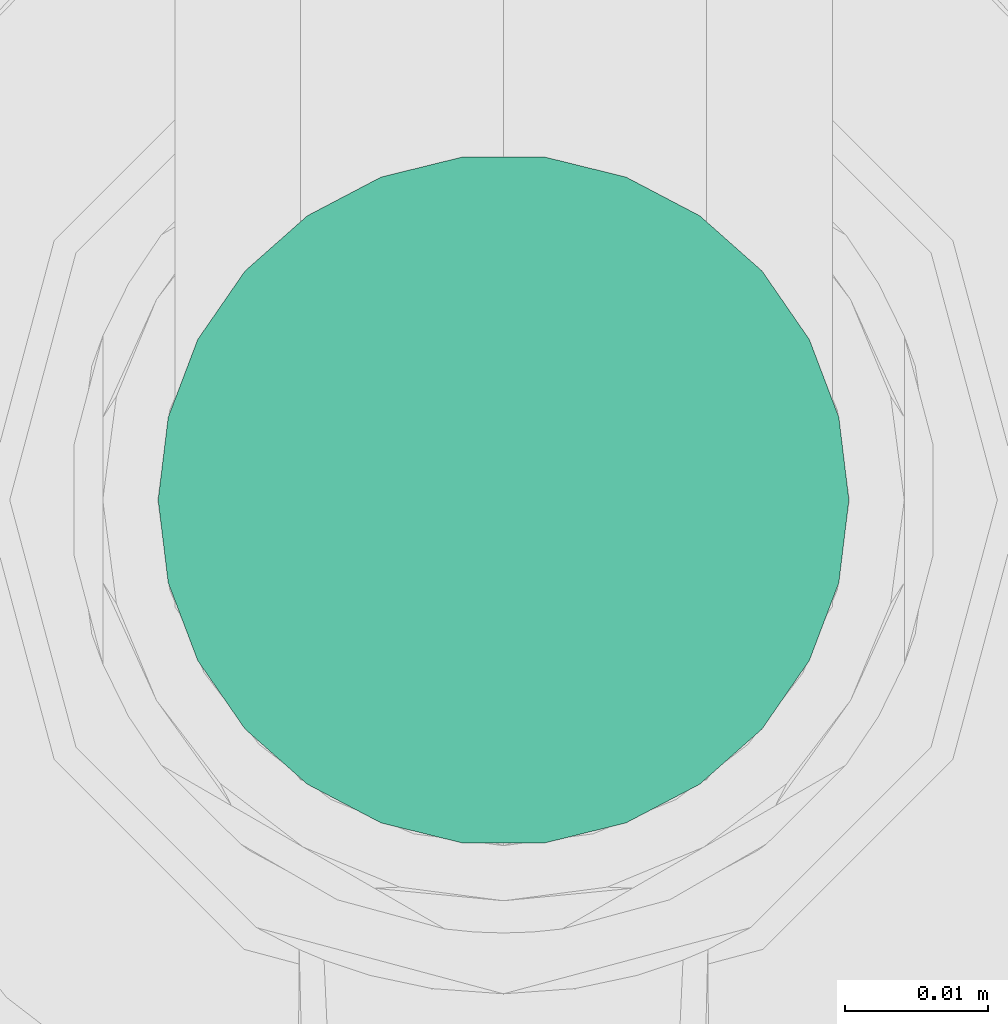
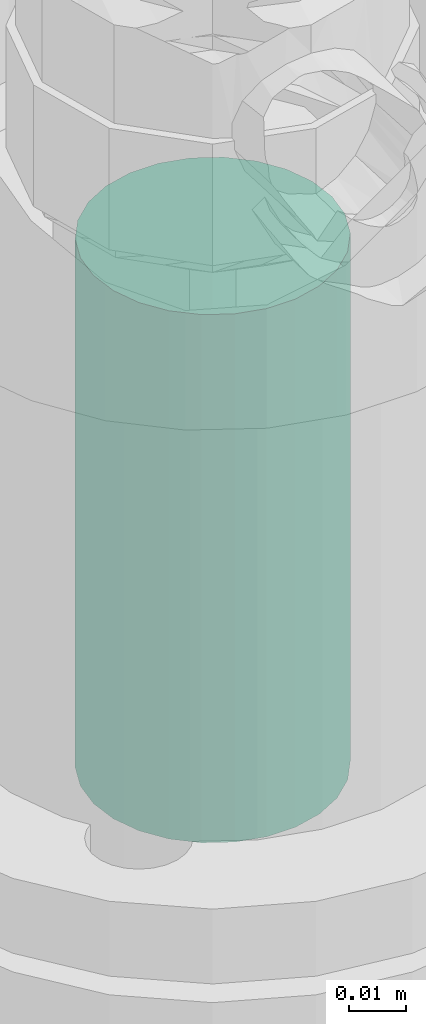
# One storey, part 73 of 94: 1 flow segment.
"""IFC2X3 building model written with IfcOpenShell, lengths in millimetres."""

from ifc_helpers import new_model, entity, si_unit, converted_unit, derived_unit, direction, frame, origin, origin_2d_with_axis, place, context, subcontext, project, spatial, circle, extrude, type_object, element, save


model = new_model("IFC2X3")

# Units and contexts
model_context = context("Model", 3, precision=0.01, world=origin(), true_north=direction((6.123031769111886e-17, 1.0)))
body_context = subcontext(model_context, "Body", "Model", "MODEL_VIEW")
ifc_project = project(units=[si_unit("LENGTHUNIT", "METRE", prefix="MILLI"), si_unit("AREAUNIT", "SQUARE_METRE"), si_unit("VOLUMEUNIT", "CUBIC_METRE"), converted_unit("PLANEANGLEUNIT", "DEGREE", entity("IfcRatioMeasure", 0.017453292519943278), si_unit("PLANEANGLEUNIT", "RADIAN"), dimensions=[0, 0, 0, 0, 0, 0, 0]), si_unit("MASSUNIT", "GRAM", prefix="KILO"), derived_unit("MASSDENSITYUNIT", [(si_unit("MASSUNIT", "GRAM", prefix="KILO"), 1), (si_unit("LENGTHUNIT", "METRE"), -3)]), derived_unit("IONCONCENTRATIONUNIT", [(si_unit("MASSUNIT", "GRAM", prefix="KILO"), 1), (si_unit("LENGTHUNIT", "METRE"), -3)]), derived_unit("MOMENTOFINERTIAUNIT", [(si_unit("LENGTHUNIT", "METRE"), 4)]), si_unit("TIMEUNIT", "SECOND"), si_unit("FREQUENCYUNIT", "HERTZ"), si_unit("THERMODYNAMICTEMPERATUREUNIT", "DEGREE_CELSIUS"), derived_unit("THERMALTRANSMITTANCEUNIT", [(si_unit("MASSUNIT", "GRAM", prefix="KILO"), 1), (si_unit("THERMODYNAMICTEMPERATUREUNIT", "KELVIN"), -1), (si_unit("TIMEUNIT", "SECOND"), -3)]), derived_unit("THERMALCONDUCTANCEUNIT", [(si_unit("MASSUNIT", "GRAM", prefix="KILO"), 1), (si_unit("THERMODYNAMICTEMPERATUREUNIT", "KELVIN"), -1), (si_unit("TIMEUNIT", "SECOND"), -3), (si_unit("LENGTHUNIT", "METRE"), 1)]), derived_unit("VOLUMETRICFLOWRATEUNIT", [(si_unit("LENGTHUNIT", "METRE"), 3), (si_unit("TIMEUNIT", "SECOND"), -1)]), derived_unit("MASSFLOWRATEUNIT", [(si_unit("MASSUNIT", "GRAM", prefix="KILO"), 1), (si_unit("TIMEUNIT", "SECOND"), -1)]), derived_unit("ROTATIONALFREQUENCYUNIT", [(si_unit("TIMEUNIT", "SECOND"), -1)]), si_unit("ELECTRICCURRENTUNIT", "AMPERE"), si_unit("ELECTRICVOLTAGEUNIT", "VOLT"), si_unit("POWERUNIT", "WATT"), si_unit("FORCEUNIT", "NEWTON", prefix="KILO"), si_unit("ILLUMINANCEUNIT", "LUX"), si_unit("LUMINOUSFLUXUNIT", "LUMEN"), si_unit("LUMINOUSINTENSITYUNIT", "CANDELA"), derived_unit("USERDEFINED", [(si_unit("MASSUNIT", "GRAM", prefix="KILO"), -1), (si_unit("LENGTHUNIT", "METRE"), -2), (si_unit("TIMEUNIT", "SECOND"), 3), (si_unit("LUMINOUSFLUXUNIT", "LUMEN"), 1)]), derived_unit("USERDEFINED", [(si_unit("MASSUNIT", "GRAM", prefix="KILO"), 1), (si_unit("TIMEUNIT", "SECOND"), -3), (si_unit("LENGTHUNIT", "METRE"), 3), (si_unit("ELECTRICCURRENTUNIT", "AMPERE"), -2)]), derived_unit("SOUNDPOWERUNIT", [(si_unit("MASSUNIT", "GRAM", prefix="KILO"), 1), (si_unit("TIMEUNIT", "SECOND"), -3), (si_unit("LENGTHUNIT", "METRE"), 2)]), derived_unit("SOUNDPRESSUREUNIT", [(si_unit("MASSUNIT", "GRAM", prefix="KILO"), 1), (si_unit("LENGTHUNIT", "METRE"), -1), (si_unit("TIMEUNIT", "SECOND"), -2)]), derived_unit("LINEARVELOCITYUNIT", [(si_unit("LENGTHUNIT", "METRE"), 1), (si_unit("TIMEUNIT", "SECOND"), -1)]), si_unit("PRESSUREUNIT", "PASCAL"), derived_unit("USERDEFINED", [(si_unit("MASSUNIT", "GRAM", prefix="KILO"), 1), (si_unit("LENGTHUNIT", "METRE"), -2), (si_unit("TIMEUNIT", "SECOND"), -2)]), derived_unit("LINEARFORCEUNIT", [(si_unit("MASSUNIT", "GRAM", prefix="KILO"), 1), (si_unit("TIMEUNIT", "SECOND"), -2)]), derived_unit("PLANARFORCEUNIT", [(si_unit("MASSUNIT", "GRAM", prefix="KILO"), 1), (si_unit("LENGTHUNIT", "METRE"), -1), (si_unit("TIMEUNIT", "SECOND"), -2)]), derived_unit("SPECIFICHEATCAPACITYUNIT", [(si_unit("THERMODYNAMICTEMPERATUREUNIT", "KELVIN"), -1), (si_unit("LENGTHUNIT", "METRE"), 2), (si_unit("TIMEUNIT", "SECOND"), -2)]), derived_unit("HEATINGVALUEUNIT", [(si_unit("LENGTHUNIT", "METRE"), 2), (si_unit("TIMEUNIT", "SECOND"), -2)]), derived_unit("VAPORPERMEABILITYUNIT", [(si_unit("LENGTHUNIT", "METRE"), -1), (si_unit("TIMEUNIT", "SECOND"), 1)]), derived_unit("DYNAMICVISCOSITYUNIT", [(si_unit("MASSUNIT", "GRAM", prefix="KILO"), 1), (si_unit("TIMEUNIT", "SECOND"), -1), (si_unit("LENGTHUNIT", "METRE"), -1)]), derived_unit("THERMALEXPANSIONCOEFFICIENTUNIT", [(si_unit("THERMODYNAMICTEMPERATUREUNIT", "KELVIN"), -1)]), derived_unit("MODULUSOFELASTICITYUNIT", [(si_unit("MASSUNIT", "GRAM", prefix="KILO"), 1), (si_unit("LENGTHUNIT", "METRE"), -1), (si_unit("TIMEUNIT", "SECOND"), -2)]), derived_unit("ISOTHERMALMOISTURECAPACITYUNIT", [(si_unit("LENGTHUNIT", "METRE"), 3), (si_unit("MASSUNIT", "GRAM", prefix="KILO"), -1)]), derived_unit("MOISTUREDIFFUSIVITYUNIT", [(si_unit("TIMEUNIT", "SECOND"), -1), (si_unit("LENGTHUNIT", "METRE"), 2)])], contexts=[model_context])

# Site, building, storey
site_placement = place(None, origin())
site = spatial("IfcSite", under=ifc_project, at=site_placement, Name="Default", CompositionType="ELEMENT")
building_placement = place(site_placement, origin())
building = spatial("IfcBuilding", under=site, at=building_placement, CompositionType="ELEMENT")
storey_placement = place(building_placement, origin())
storey = spatial("IfcBuildingStorey", under=building, at=storey_placement, Name="Niveau 0", CompositionType="ELEMENT", Elevation=0.0)

# Flow segment
pipe_segment_type = type_object("IfcPipeSegmentType", Name="Canalisation:Standard", PredefinedType="NOTDEFINED")
flow_segment_placement = place(storey_placement, origin())
element("IfcFlowSegment", 1, at=flow_segment_placement, inside=storey, type_object=pipe_segment_type, Name="Canalisation:Standard", ObjectType="Canalisation:Standard", context=body_context, shape_type="SweptSolid", body=[
    extrude(circle(Radius=24.13, at=origin_2d_with_axis()), frame((-10372.14586555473, 9922.470546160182, 2492.052721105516), z_axis=(0.0, 0.0, 1.0), x_axis=(-1.0, 0.0, 0.0)), (0.0, 0.0, 1.0), 112.94727889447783),
])

save(model, "model.ifc")
